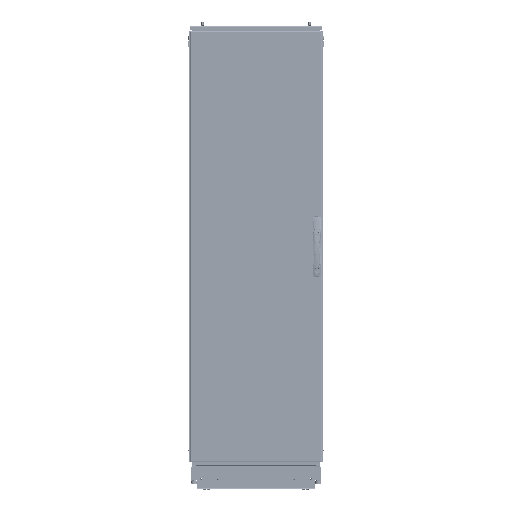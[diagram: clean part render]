
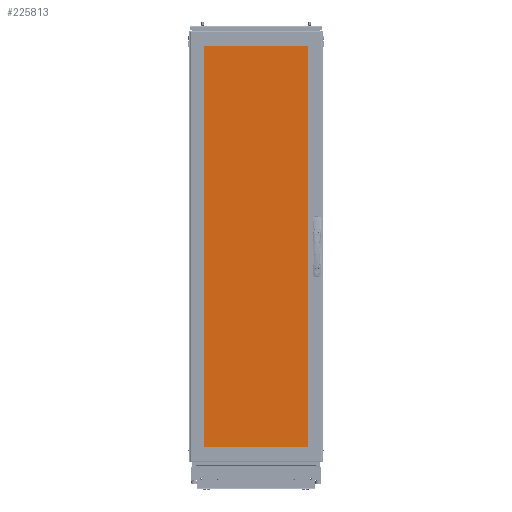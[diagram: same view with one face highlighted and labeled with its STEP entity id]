
A CAD part, top view. The second image highlights one B-rep face of the part: STEP entity #225813.
In plain terms, the highlighted planar face has unit normal (0, 0, 1) as drawn and (0, 0, -1) by its records, which use the part's own axes.
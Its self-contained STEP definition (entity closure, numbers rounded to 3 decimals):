
#104 = CARTESIAN_POINT ( 'NONE',  ( 934.999, 259.499, 0. ) ) ;
#16821 = CARTESIAN_POINT ( 'NONE',  ( -934.999, 210.477, 0. ) ) ;
#19375 = CARTESIAN_POINT ( 'NONE',  ( 0., 247.206, 0. ) ) ;
#21013 = CARTESIAN_POINT ( 'NONE',  ( -934.999, 259.499, 0. ) ) ;
#30408 = DIRECTION ( 'NONE',  ( 0., 0., -1. ) ) ;
#30669 = PLANE ( 'NONE',  #308259 ) ;
#36020 = LINE ( 'NONE', #339967, #363881 ) ;
#45395 = DIRECTION ( 'NONE',  ( 1., 0., 0. ) ) ;
#45817 = DIRECTION ( 'NONE',  ( 0., -1., 0. ) ) ;
#46381 = CIRCLE ( 'NONE', #347812, 5.563 ) ;
#47249 = CARTESIAN_POINT ( 'NONE',  ( -934.999, -210.477, 0. ) ) ;
#50351 = VECTOR ( 'NONE', #45817, 1000. ) ;
#53300 = CARTESIAN_POINT ( 'NONE',  ( 885.977, -259.499, 0. ) ) ;
#53728 = CARTESIAN_POINT ( 'NONE',  ( 934.999, -210.477, 0. ) ) ;
#56396 = EDGE_CURVE ( 'NONE', #138248, #138345, #36020, .T. ) ;
#58099 = CARTESIAN_POINT ( 'NONE',  ( -5.563, -247.205, 0. ) ) ;
#60212 = LINE ( 'NONE', #218488, #50351 ) ;
#67511 = AXIS2_PLACEMENT_3D ( 'NONE', #273624, #86246, #274966 ) ;
#68011 = FACE_BOUND ( 'NONE', #247611, .T. ) ;
#71296 = VECTOR ( 'NONE', #226688, 1000. ) ;
#78795 = VERTEX_POINT ( 'NONE', #146458 ) ;
#83124 = CARTESIAN_POINT ( 'NONE',  ( -934.999, 210.477, 0. ) ) ;
#83513 = LINE ( 'NONE', #21013, #279352 ) ;
#86246 = DIRECTION ( 'NONE',  ( 0., 0., -1. ) ) ;
#88924 = DIRECTION ( 'NONE',  ( 0., 1., 0. ) ) ;
#89736 = VECTOR ( 'NONE', #99524, 1000. ) ;
#92381 = EDGE_LOOP ( 'NONE', ( #215407, #361586, #312311, #93714, #351959, #120871, #319255, #384992 ) ) ;
#93526 = VECTOR ( 'NONE', #243864, 1000. ) ;
#93714 = ORIENTED_EDGE ( 'NONE', *, *, #125043, .F. ) ;
#96489 = ORIENTED_EDGE ( 'NONE', *, *, #393461, .F. ) ;
#98049 = EDGE_CURVE ( 'NONE', #403150, #138248, #402849, .T. ) ;
#98416 = DIRECTION ( 'NONE',  ( 1., 0., 0. ) ) ;
#99524 = DIRECTION ( 'NONE',  ( 0.707, -0.707, 0. ) ) ;
#102833 = VERTEX_POINT ( 'NONE', #284147 ) ;
#104306 = EDGE_CURVE ( 'NONE', #368679, #403150, #60212, .T. ) ;
#105141 = ORIENTED_EDGE ( 'NONE', *, *, #274477, .F. ) ;
#108043 = EDGE_LOOP ( 'NONE', ( #210613, #96489 ) ) ;
#120803 = DIRECTION ( 'NONE',  ( 1., 0., 0. ) ) ;
#120871 = ORIENTED_EDGE ( 'NONE', *, *, #56396, .F. ) ;
#122387 = DIRECTION ( 'NONE',  ( 1., 0., 0. ) ) ;
#125043 = EDGE_CURVE ( 'NONE', #102833, #203889, #231145, .T. ) ;
#125838 = EDGE_CURVE ( 'NONE', #319367, #200382, #83513, .T. ) ;
#138248 = VERTEX_POINT ( 'NONE', #265363 ) ;
#138345 = VERTEX_POINT ( 'NONE', #53300 ) ;
#144711 = VERTEX_POINT ( 'NONE', #331887 ) ;
#146458 = CARTESIAN_POINT ( 'NONE',  ( 5.563, -247.205, 0. ) ) ;
#147010 = CARTESIAN_POINT ( 'NONE',  ( 934.999, 210.477, 0. ) ) ;
#148911 = DIRECTION ( 'NONE',  ( -0.707, -0.707, 0. ) ) ;
#159895 = CARTESIAN_POINT ( 'NONE',  ( -934.999, -210.477, 0. ) ) ;
#161191 = FACE_OUTER_BOUND ( 'NONE', #92381, .T. ) ;
#187807 = CARTESIAN_POINT ( 'NONE',  ( 0., -247.205, 0. ) ) ;
#196730 = VECTOR ( 'NONE', #148911, 1000. ) ;
#200382 = VERTEX_POINT ( 'NONE', #300089 ) ;
#203889 = VERTEX_POINT ( 'NONE', #147010 ) ;
#210613 = ORIENTED_EDGE ( 'NONE', *, *, #367732, .F. ) ;
#215407 = ORIENTED_EDGE ( 'NONE', *, *, #278235, .F. ) ;
#215434 = CARTESIAN_POINT ( 'NONE',  ( -5.563, 247.206, 0. ) ) ;
#218488 = CARTESIAN_POINT ( 'NONE',  ( -934.999, 259.499, 0. ) ) ;
#224676 = FACE_BOUND ( 'NONE', #108043, .T. ) ;
#225813 = ADVANCED_FACE ( 'NONE', ( #68011, #224676, #161191 ), #30669, .F. ) ;
#226688 = DIRECTION ( 'NONE',  ( -0.707, 0.707, 0. ) ) ;
#231145 = LINE ( 'NONE', #104, #250764 ) ;
#240298 = LINE ( 'NONE', #53728, #93526 ) ;
#243864 = DIRECTION ( 'NONE',  ( 0.707, 0.707, 0. ) ) ;
#247611 = EDGE_LOOP ( 'NONE', ( #105141, #396249 ) ) ;
#250764 = VECTOR ( 'NONE', #88924, 1000. ) ;
#250859 = CARTESIAN_POINT ( 'NONE',  ( -934.999, -259.499, 0. ) ) ;
#257082 = CARTESIAN_POINT ( 'NONE',  ( 0., -247.205, 0. ) ) ;
#260579 = AXIS2_PLACEMENT_3D ( 'NONE', #187807, #30408, #120803 ) ;
#265363 = CARTESIAN_POINT ( 'NONE',  ( -885.977, -259.499, 0. ) ) ;
#269553 = DIRECTION ( 'NONE',  ( 0., 0., -1. ) ) ;
#269880 = VERTEX_POINT ( 'NONE', #215434 ) ;
#270236 = CARTESIAN_POINT ( 'NONE',  ( 885.977, 259.499, 0. ) ) ;
#272577 = DIRECTION ( 'NONE',  ( -1., 0., 0. ) ) ;
#273624 = CARTESIAN_POINT ( 'NONE',  ( 0., 247.206, 0. ) ) ;
#274477 = EDGE_CURVE ( 'NONE', #78795, #318406, #369763, .T. ) ;
#274966 = DIRECTION ( 'NONE',  ( 1., 0., 0. ) ) ;
#278235 = EDGE_CURVE ( 'NONE', #200382, #368679, #338140, .T. ) ;
#279352 = VECTOR ( 'NONE', #272577, 1000. ) ;
#284147 = CARTESIAN_POINT ( 'NONE',  ( 934.999, -210.477, 0. ) ) ;
#285720 = DIRECTION ( 'NONE',  ( 0., 0., -1. ) ) ;
#290801 = CARTESIAN_POINT ( 'NONE',  ( 885.977, 259.499, 0. ) ) ;
#297868 = CIRCLE ( 'NONE', #67511, 5.563 ) ;
#300089 = CARTESIAN_POINT ( 'NONE',  ( -885.977, 259.499, 0. ) ) ;
#308259 = AXIS2_PLACEMENT_3D ( 'NONE', #250859, #372475, #122387 ) ;
#312311 = ORIENTED_EDGE ( 'NONE', *, *, #326030, .F. ) ;
#316077 = LINE ( 'NONE', #290801, #71296 ) ;
#318406 = VERTEX_POINT ( 'NONE', #58099 ) ;
#319255 = ORIENTED_EDGE ( 'NONE', *, *, #98049, .F. ) ;
#319367 = VERTEX_POINT ( 'NONE', #270236 ) ;
#326030 = EDGE_CURVE ( 'NONE', #203889, #319367, #316077, .T. ) ;
#331887 = CARTESIAN_POINT ( 'NONE',  ( 5.563, 247.206, 0. ) ) ;
#338140 = LINE ( 'NONE', #83124, #196730 ) ;
#339967 = CARTESIAN_POINT ( 'NONE',  ( -934.999, -259.499, 0. ) ) ;
#347812 = AXIS2_PLACEMENT_3D ( 'NONE', #19375, #269553, #45395 ) ;
#351959 = ORIENTED_EDGE ( 'NONE', *, *, #373976, .F. ) ;
#361586 = ORIENTED_EDGE ( 'NONE', *, *, #125838, .F. ) ;
#363881 = VECTOR ( 'NONE', #402914, 1000. ) ;
#367732 = EDGE_CURVE ( 'NONE', #144711, #269880, #297868, .T. ) ;
#368679 = VERTEX_POINT ( 'NONE', #16821 ) ;
#369763 = CIRCLE ( 'NONE', #260579, 5.563 ) ;
#372475 = DIRECTION ( 'NONE',  ( 0., 0., 1. ) ) ;
#373976 = EDGE_CURVE ( 'NONE', #138345, #102833, #240298, .T. ) ;
#380603 = CIRCLE ( 'NONE', #381441, 5.563 ) ;
#381441 = AXIS2_PLACEMENT_3D ( 'NONE', #257082, #285720, #98416 ) ;
#384992 = ORIENTED_EDGE ( 'NONE', *, *, #104306, .F. ) ;
#391104 = EDGE_CURVE ( 'NONE', #318406, #78795, #380603, .T. ) ;
#393461 = EDGE_CURVE ( 'NONE', #269880, #144711, #46381, .T. ) ;
#396249 = ORIENTED_EDGE ( 'NONE', *, *, #391104, .F. ) ;
#402849 = LINE ( 'NONE', #159895, #89736 ) ;
#402914 = DIRECTION ( 'NONE',  ( 1., 0., 0. ) ) ;
#403150 = VERTEX_POINT ( 'NONE', #47249 ) ;
